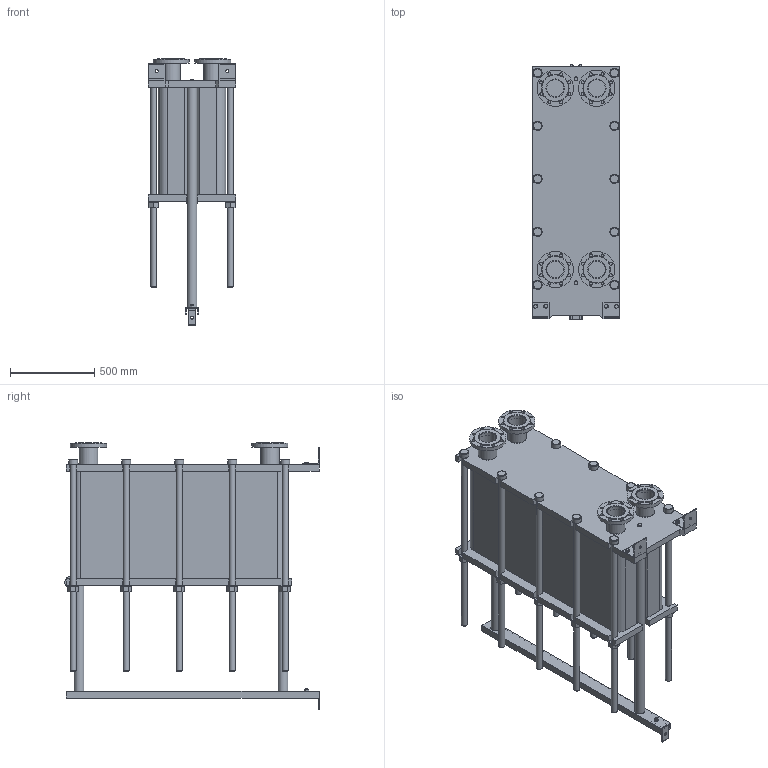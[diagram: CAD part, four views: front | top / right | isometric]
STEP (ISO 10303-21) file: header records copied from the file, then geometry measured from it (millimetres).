
FILE_DESCRIPTION(/* description */ (''),/* implementation_level */ '2;1');
FILE_NAME(/* name */ 'C:\Users\zhuro\Desktop\ENCO\TO\ЭН-04\ЭН-0,5-04-185-1.stp',/* time_stamp */ '2022-06-06T11:01:02+03:00',/* author */ ('zhuro'),/* organization */ (''),/* preprocessor_version */ 'ST-DEVELOPER v18.1',/* originating_system */ 'Autodesk Inventor 2022',/* authorisation */ '');
FILE_SCHEMA (('AUTOMOTIVE_DESIGN { 1 0 10303 214 3 1 1 }'));
Length unit declared in the file: millimetre
Products named in the file (1): ЭН-0,5-04-185-1
Bounding box: 520 x 1510 x 1582.5 mm (x, y, z)
Volume: 394750844.7 mm3; surface area: 10224420 mm2
Topology: 45 solids, 45 shells, 668 faces, 1611 edges, 1048 vertices
Faces by surface type: plane 457, cylinder 166, cone 39, torus 6
Full cylindrical faces by diameter (mm): 8 x4, 10 x2, 16 x8, 18 x35, 36 x25, 40 x2, 42 x1, 45 x4, 54 x10, 57 x2, 60 x10, 68 x2, 100 x4, 110 x8, 215 x4
Entity records: 23607 total; most frequent: CARTESIAN_POINT 7348, DIRECTION 3371, ORIENTED_EDGE 3142, EDGE_CURVE 1571, AXIS2_PLACEMENT_3D 1199, VERTEX_POINT 1044, LINE 973, VECTOR 973
